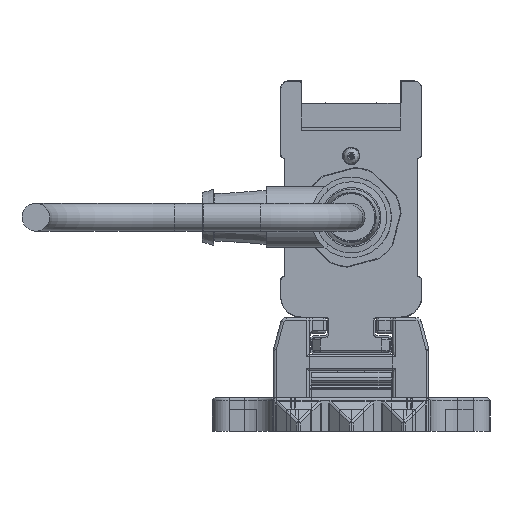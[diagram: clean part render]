
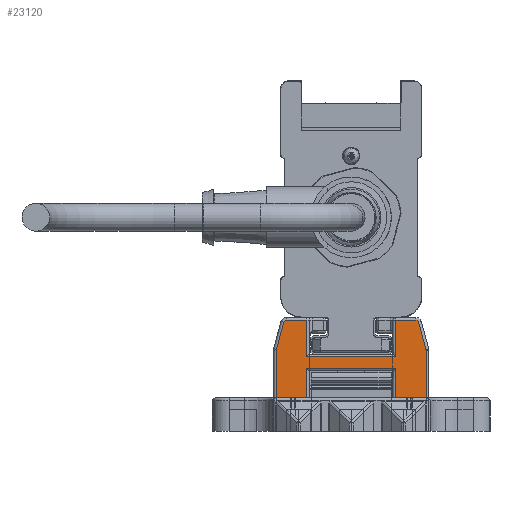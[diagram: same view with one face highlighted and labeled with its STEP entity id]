
A CAD part, left-side view. The second image highlights one B-rep face of the part: STEP entity #23120.
In plain terms, the highlighted planar face has unit normal (-1, 0, 0).
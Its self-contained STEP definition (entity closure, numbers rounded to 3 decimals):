
#23120=ADVANCED_FACE('', (#23130), #23140, .T.);
#117610=AXIS2_PLACEMENT_3D('Ax2Pl3d', #117620, #117630, #117640);
#117850=AXIS2_PLACEMENT_3D('Ax2Pl3d', #117860, #117870, #117880);
#122730=AXIS2_PLACEMENT_3D('Ax2Pl3d', #122740, #122750, #122760);
#127810=AXIS2_PLACEMENT_3D('Ax2Pl3d', #127820, #127830, #127840);
#137490=AXIS2_PLACEMENT_3D('Ax2Pl3d', #137500, #137510, #137520);
#453240=CARTESIAN_POINT('', (-747.669,-1846.345,
331.37));
#117620=CARTESIAN_POINT('HicPkt', (-747.669,-1845.379,
331.111));
#453250=CARTESIAN_POINT('', (-747.669,-1846.379,
331.111));
#453260=CARTESIAN_POINT('', (-747.669,-1845.037,336.255)
);
#453280=CARTESIAN_POINT('', (-747.669,-1845.037,336.255)
);
#453310=CARTESIAN_POINT('', (-747.669,-1844.554,
336.625));
#117860=CARTESIAN_POINT('HicPkt', (-747.669,-1844.554,
336.125));
#453530=CARTESIAN_POINT('', (-747.669,-1846.379,
322.625));
#453540=CARTESIAN_POINT('', (-747.669,-1840.881,
322.625));
#453550=CARTESIAN_POINT('', (-747.669,-1840.881,
322.625));
#453630=CARTESIAN_POINT('', (-747.669,-1824.881,
322.625));
#453640=CARTESIAN_POINT('', (-747.669,-1819.383,
322.625));
#453650=CARTESIAN_POINT('', (-747.669,-1819.383,
322.625));
#122740=CARTESIAN_POINT('HicPkt', (-747.669,-1821.209,
336.125));
#456120=CARTESIAN_POINT('', (-747.669,-1820.726,
336.255));
#456130=CARTESIAN_POINT('', (-747.669,-1821.209,
336.625));
#456140=CARTESIAN_POINT('', (-747.669,-1840.881,
330.025));
#456150=CARTESIAN_POINT('', (-747.669,-1824.881,
330.025));
#456160=CARTESIAN_POINT('', (-747.669,-1840.881,
330.025));
#456320=CARTESIAN_POINT('', (-747.669,-1840.881,
328.005));
#456330=CARTESIAN_POINT('', (-747.669,-1824.881,
328.005));
#456340=CARTESIAN_POINT('', (-747.669,-1824.881,
328.005));
#456350=CARTESIAN_POINT('', (-747.669,-1840.881,
328.005));
#456370=CARTESIAN_POINT('', (-747.669,-1824.881,
322.625));
#456380=CARTESIAN_POINT('', (-747.669,-1824.881,
330.025));
#456390=CARTESIAN_POINT('', (-747.669,-1824.881,
336.625));
#457240=CARTESIAN_POINT('', (-747.669,-1824.881,
336.625));
#457250=CARTESIAN_POINT('', (-747.669,-1820.726,
336.255));
#457260=CARTESIAN_POINT('', (-747.669,-1819.417,
331.37));
#457450=CARTESIAN_POINT('', (-747.669,-1819.383,
331.111));
#457460=CARTESIAN_POINT('', (-747.669,-1819.383,
331.111));
#127820=CARTESIAN_POINT('HicPkt', (-747.669,-1820.383,
331.111));
#458270=CARTESIAN_POINT('', (-747.669,-1846.379,
331.111));
#137500=CARTESIAN_POINT('HicPkt', (-747.669,-1844.554,
336.625));
#460070=CARTESIAN_POINT('', (-747.669,-1840.881,
336.625));
#460080=CARTESIAN_POINT('', (-747.669,-1840.881,
336.625));
#460090=CARTESIAN_POINT('', (-747.669,-1840.881,
336.625));
#522140=CIRCLE('Circle', #117610, 1.);
#522180=CIRCLE('Circle', #117850, 0.5);
#522760=CIRCLE('Circle', #122730, 0.5);
#523290=CIRCLE('Circle', #127810, 1.);
#117630=DIRECTION('Axis', (-1.,0.,
0.));
#117640=DIRECTION('RefDirection', (0.,
0.,-1.));
#730180=DIRECTION('', (0.,0.259,
0.966));
#117870=DIRECTION('Axis', (-1.,0.,
0.));
#117880=DIRECTION('RefDirection', (0.,
0.,-1.));
#730290=DIRECTION('', (0.,1.,0.));
#730330=DIRECTION('', (0.,1.,0.));
#122750=DIRECTION('Axis', (1.,0.,
0.));
#122760=DIRECTION('RefDirection', (0.,
0.,-1.));
#731520=DIRECTION('', (0.,-1.,0.));
#731620=DIRECTION('', (0.,1.,0.));
#731630=DIRECTION('', (0.,0.,1.));
#731650=DIRECTION('', (0.,0.,-1.));
#731660=DIRECTION('', (0.,0.,-1.));
#732090=DIRECTION('', (0.,-1.,0.));
#732100=DIRECTION('', (0.,-0.259,0.966));
#732190=DIRECTION('', (0.,0.,1.));
#127830=DIRECTION('Axis', (1.,0.,
0.));
#127840=DIRECTION('RefDirection', (0.,
0.,-1.));
#732560=DIRECTION('', (0.,0.,1.));
#137510=DIRECTION('Axis', (-1.,0.,
0.));
#137520=DIRECTION('RefDirection', (0.,
0.,-1.));
#733400=DIRECTION('', (0.,1.,0.));
#733410=DIRECTION('', (0.,0.,1.));
#785930=EDGE_CURVE('', #785940, #785920, #522140, .T.);
#785990=EDGE_CURVE('', #785920, #785970, #786000, .T.);
#786060=EDGE_CURVE('', #785970, #786050, #522180, .T.);
#786510=EDGE_CURVE('', #786500, #786520, #786530, .T.);
#786670=EDGE_CURVE('', #786660, #786680, #786690, .T.);
#791030=EDGE_CURVE('', #791040, #791050, #522760, .T.);
#791080=EDGE_CURVE('', #791090, #791100, #791110, .T.);
#791450=EDGE_CURVE('', #791430, #791460, #791470, .T.);
#791500=EDGE_CURVE('', #786520, #791430, #791510, .T.);
#791540=EDGE_CURVE('', #791460, #786660, #791550, .T.);
#791560=EDGE_CURVE('', #791570, #791090, #791580, .T.);
#793400=EDGE_CURVE('', #791050, #791570, #793410, .T.);
#793470=EDGE_CURVE('', #793480, #791040, #793490, .T.);
#793910=EDGE_CURVE('', #786680, #793920, #793930, .T.);
#793950=EDGE_CURVE('', #793920, #793480, #523290, .T.);
#795660=EDGE_CURVE('', #786500, #785940, #795670, .T.);
#799470=EDGE_CURVE('', #786050, #799480, #799490, .T.);
#799500=EDGE_CURVE('', #791100, #799480, #799510, .T.);
#950330=EDGE_LOOP('Edge_loop', (#950340,#950350,#950360,#950370,#950380,
#950390,#950400,#950410,#950420,#950430,#950440,#950450,#950460,#950470,
#950480,#950490,#950500,#950510));
#23130=FACE_OUTER_BOUND('Face_outer_bound', #950330, .T.);
#786000=LINE('Line', #453280, #1078570);
#786530=LINE('Line', #453540, #1078680);
#786690=LINE('Line', #453640, #1078720);
#791110=LINE('Line', #456140, #1079910);
#791470=LINE('Line', #456330, #1080010);
#791510=LINE('Line', #456350, #1080020);
#791550=LINE('Line', #456370, #1080040);
#791580=LINE('Line', #456380, #1080050);
#793410=LINE('Line', #457240, #1080480);
#793490=LINE('Line', #457250, #1080490);
#793930=LINE('Line', #457450, #1080580);
#795670=LINE('Line', #458270, #1080950);
#799490=LINE('Line', #460070, #1081790);
#799510=LINE('Line', #460090, #1081800);
#950340=ORIENTED_EDGE('', *, *, #799470, .T.);
#950350=ORIENTED_EDGE('', *, *, #799500, .F.);
#950360=ORIENTED_EDGE('', *, *, #791080, .F.);
#950370=ORIENTED_EDGE('', *, *, #791560, .F.);
#950380=ORIENTED_EDGE('', *, *, #793400, .F.);
#950390=ORIENTED_EDGE('', *, *, #791030, .F.);
#950400=ORIENTED_EDGE('', *, *, #793470, .F.);
#950410=ORIENTED_EDGE('', *, *, #793950, .F.);
#950420=ORIENTED_EDGE('', *, *, #793910, .F.);
#950430=ORIENTED_EDGE('', *, *, #786670, .F.);
#950440=ORIENTED_EDGE('', *, *, #791540, .F.);
#950450=ORIENTED_EDGE('', *, *, #791450, .F.);
#950460=ORIENTED_EDGE('', *, *, #791500, .F.);
#950470=ORIENTED_EDGE('', *, *, #786510, .F.);
#950480=ORIENTED_EDGE('', *, *, #795660, .T.);
#950490=ORIENTED_EDGE('', *, *, #785930, .T.);
#950500=ORIENTED_EDGE('', *, *, #785990, .T.);
#950510=ORIENTED_EDGE('', *, *, #786060, .T.);
#23140=PLANE('Plane', #137490);
#1078570=VECTOR('', #730180, 5.057);
#1078680=VECTOR('', #730290, 5.498);
#1078720=VECTOR('', #730330, 5.498);
#1079910=VECTOR('', #731520, 16.);
#1080010=VECTOR('', #731620, 16.);
#1080020=VECTOR('', #731630, 5.38);
#1080040=VECTOR('', #731650, 5.38);
#1080050=VECTOR('', #731660, 6.6);
#1080480=VECTOR('', #732090, 3.672);
#1080490=VECTOR('', #732100, 5.057);
#1080580=VECTOR('', #732190, 8.486);
#1080950=VECTOR('', #732560, 8.486);
#1081790=VECTOR('', #733400, 3.672);
#1081800=VECTOR('', #733410, 6.6);
#785920=VERTEX_POINT('', #453240);
#785940=VERTEX_POINT('', #453250);
#785970=VERTEX_POINT('', #453260);
#786050=VERTEX_POINT('', #453310);
#786500=VERTEX_POINT('', #453530);
#786520=VERTEX_POINT('', #453550);
#786660=VERTEX_POINT('', #453630);
#786680=VERTEX_POINT('', #453650);
#791040=VERTEX_POINT('', #456120);
#791050=VERTEX_POINT('', #456130);
#791090=VERTEX_POINT('', #456150);
#791100=VERTEX_POINT('', #456160);
#791430=VERTEX_POINT('', #456320);
#791460=VERTEX_POINT('', #456340);
#791570=VERTEX_POINT('', #456390);
#793480=VERTEX_POINT('', #457260);
#793920=VERTEX_POINT('', #457460);
#799480=VERTEX_POINT('', #460080);
